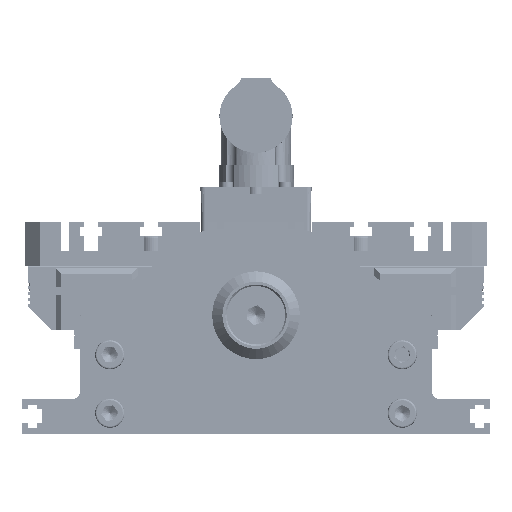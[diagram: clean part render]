
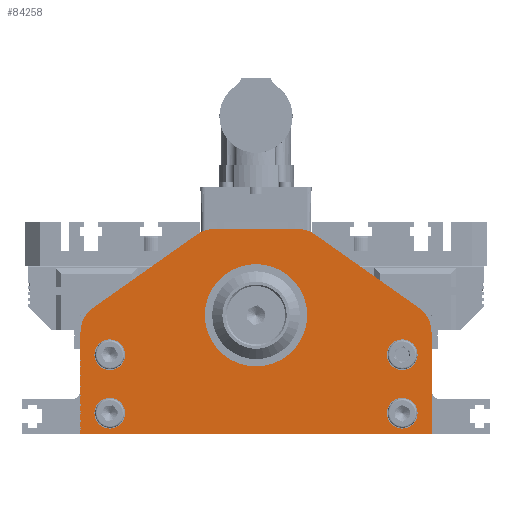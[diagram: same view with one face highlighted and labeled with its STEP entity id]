
A CAD part, front view. The second image highlights one B-rep face of the part: STEP entity #84258.
In plain terms, the highlighted planar face has unit normal (0, -1, 0).
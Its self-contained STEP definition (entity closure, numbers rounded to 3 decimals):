
#1198=FACE_BOUND('',#27876,.T.);
#1199=FACE_BOUND('',#27877,.T.);
#1200=FACE_BOUND('',#27878,.T.);
#1201=FACE_BOUND('',#27879,.T.);
#1202=FACE_BOUND('',#27880,.T.);
#3355=PLANE('',#90630);
#9880=LINE('',#134273,#17667);
#9891=LINE('',#134350,#17678);
#9895=LINE('',#134357,#17682);
#9897=LINE('',#134365,#17684);
#9901=LINE('',#134377,#17688);
#9904=LINE('',#134388,#17691);
#17667=VECTOR('',#108521,10.);
#17678=VECTOR('',#108606,10.);
#17682=VECTOR('',#108612,10.);
#17684=VECTOR('',#108622,10.);
#17688=VECTOR('',#108634,10.);
#17691=VECTOR('',#108647,10.);
#23344=FACE_OUTER_BOUND('',#27875,.T.);
#27875=EDGE_LOOP('',(#68096,#68097,#68098,#68099,#68100,#68101,#68102,#68103,
#68104,#68105));
#27876=EDGE_LOOP('',(#68106,#68107));
#27877=EDGE_LOOP('',(#68108,#68109));
#27878=EDGE_LOOP('',(#68110,#68111));
#27879=EDGE_LOOP('',(#68112,#68113));
#27880=EDGE_LOOP('',(#68114,#68115));
#31771=CIRCLE('',#90584,17.5);
#31772=CIRCLE('',#90585,17.5);
#31775=CIRCLE('',#90590,5.25);
#31776=CIRCLE('',#90591,5.25);
#31779=CIRCLE('',#90596,5.25);
#31780=CIRCLE('',#90597,5.25);
#31785=CIRCLE('',#90604,5.25);
#31786=CIRCLE('',#90605,5.25);
#31789=CIRCLE('',#90610,5.25);
#31790=CIRCLE('',#90611,5.25);
#31796=CIRCLE('',#90621,10.);
#31797=CIRCLE('',#90624,10.);
#31800=CIRCLE('',#90629,10.);
#31801=CIRCLE('',#90631,10.);
#38956=VERTEX_POINT('',#134270);
#38957=VERTEX_POINT('',#134272);
#38959=VERTEX_POINT('',#134280);
#38960=VERTEX_POINT('',#134281);
#38963=VERTEX_POINT('',#134291);
#38964=VERTEX_POINT('',#134292);
#38967=VERTEX_POINT('',#134302);
#38968=VERTEX_POINT('',#134303);
#38973=VERTEX_POINT('',#134317);
#38974=VERTEX_POINT('',#134318);
#38977=VERTEX_POINT('',#134328);
#38978=VERTEX_POINT('',#134329);
#38984=VERTEX_POINT('',#134344);
#38986=VERTEX_POINT('',#134348);
#38988=VERTEX_POINT('',#134353);
#38989=VERTEX_POINT('',#134362);
#38991=VERTEX_POINT('',#134368);
#38993=VERTEX_POINT('',#134374);
#38996=VERTEX_POINT('',#134382);
#38997=VERTEX_POINT('',#134386);
#49490=EDGE_CURVE('',#38957,#38956,#9880,.T.);
#49494=EDGE_CURVE('',#38959,#38960,#31771,.T.);
#49495=EDGE_CURVE('',#38960,#38959,#31772,.T.);
#49499=EDGE_CURVE('',#38963,#38964,#31775,.T.);
#49500=EDGE_CURVE('',#38964,#38963,#31776,.T.);
#49504=EDGE_CURVE('',#38967,#38968,#31779,.T.);
#49505=EDGE_CURVE('',#38968,#38967,#31780,.T.);
#49511=EDGE_CURVE('',#38973,#38974,#31785,.T.);
#49512=EDGE_CURVE('',#38974,#38973,#31786,.T.);
#49516=EDGE_CURVE('',#38977,#38978,#31789,.T.);
#49517=EDGE_CURVE('',#38978,#38977,#31790,.T.);
#49526=EDGE_CURVE('',#38984,#38986,#9891,.T.);
#49530=EDGE_CURVE('',#38988,#38957,#9895,.T.);
#49532=EDGE_CURVE('',#38988,#38986,#31796,.T.);
#49534=EDGE_CURVE('',#38956,#38989,#9897,.T.);
#49536=EDGE_CURVE('',#38991,#38989,#31797,.T.);
#49540=EDGE_CURVE('',#38991,#38993,#9901,.T.);
#49544=EDGE_CURVE('',#38996,#38993,#31800,.T.);
#49545=EDGE_CURVE('',#38984,#38997,#31801,.T.);
#49546=EDGE_CURVE('',#38996,#38997,#9904,.T.);
#68096=ORIENTED_EDGE('',*,*,#49545,.F.);
#68097=ORIENTED_EDGE('',*,*,#49526,.T.);
#68098=ORIENTED_EDGE('',*,*,#49532,.F.);
#68099=ORIENTED_EDGE('',*,*,#49530,.T.);
#68100=ORIENTED_EDGE('',*,*,#49490,.T.);
#68101=ORIENTED_EDGE('',*,*,#49534,.T.);
#68102=ORIENTED_EDGE('',*,*,#49536,.F.);
#68103=ORIENTED_EDGE('',*,*,#49540,.T.);
#68104=ORIENTED_EDGE('',*,*,#49544,.F.);
#68105=ORIENTED_EDGE('',*,*,#49546,.T.);
#68106=ORIENTED_EDGE('',*,*,#49516,.T.);
#68107=ORIENTED_EDGE('',*,*,#49517,.T.);
#68108=ORIENTED_EDGE('',*,*,#49511,.T.);
#68109=ORIENTED_EDGE('',*,*,#49512,.T.);
#68110=ORIENTED_EDGE('',*,*,#49504,.T.);
#68111=ORIENTED_EDGE('',*,*,#49505,.T.);
#68112=ORIENTED_EDGE('',*,*,#49499,.T.);
#68113=ORIENTED_EDGE('',*,*,#49500,.T.);
#68114=ORIENTED_EDGE('',*,*,#49494,.T.);
#68115=ORIENTED_EDGE('',*,*,#49495,.T.);
#84258=ADVANCED_FACE('',(#23344,#1198,#1199,#1200,#1201,#1202),#3355,.F.);
#90584=AXIS2_PLACEMENT_3D('',#134282,#108530,#108531);
#90585=AXIS2_PLACEMENT_3D('',#134283,#108532,#108533);
#90590=AXIS2_PLACEMENT_3D('',#134293,#108543,#108544);
#90591=AXIS2_PLACEMENT_3D('',#134294,#108545,#108546);
#90596=AXIS2_PLACEMENT_3D('',#134304,#108556,#108557);
#90597=AXIS2_PLACEMENT_3D('',#134305,#108558,#108559);
#90604=AXIS2_PLACEMENT_3D('',#134319,#108573,#108574);
#90605=AXIS2_PLACEMENT_3D('',#134320,#108575,#108576);
#90610=AXIS2_PLACEMENT_3D('',#134330,#108586,#108587);
#90611=AXIS2_PLACEMENT_3D('',#134331,#108588,#108589);
#90621=AXIS2_PLACEMENT_3D('',#134360,#108617,#108618);
#90624=AXIS2_PLACEMENT_3D('',#134369,#108626,#108627);
#90629=AXIS2_PLACEMENT_3D('',#134384,#108641,#108642);
#90630=AXIS2_PLACEMENT_3D('',#134385,#108643,#108644);
#90631=AXIS2_PLACEMENT_3D('',#134387,#108645,#108646);
#108521=DIRECTION('',(1.,0.,0.));
#108530=DIRECTION('center_axis',(0.,1.,0.));
#108531=DIRECTION('ref_axis',(-1.,0.,0.));
#108532=DIRECTION('center_axis',(0.,1.,0.));
#108533=DIRECTION('ref_axis',(-1.,0.,0.));
#108543=DIRECTION('center_axis',(0.,1.,0.));
#108544=DIRECTION('ref_axis',(-1.,0.,0.));
#108545=DIRECTION('center_axis',(0.,1.,0.));
#108546=DIRECTION('ref_axis',(-1.,0.,0.));
#108556=DIRECTION('center_axis',(0.,1.,0.));
#108557=DIRECTION('ref_axis',(-1.,0.,0.));
#108558=DIRECTION('center_axis',(0.,1.,0.));
#108559=DIRECTION('ref_axis',(-1.,0.,0.));
#108573=DIRECTION('center_axis',(0.,1.,0.));
#108574=DIRECTION('ref_axis',(-1.,0.,0.));
#108575=DIRECTION('center_axis',(0.,1.,0.));
#108576=DIRECTION('ref_axis',(-1.,0.,0.));
#108586=DIRECTION('center_axis',(0.,1.,0.));
#108587=DIRECTION('ref_axis',(-1.,0.,0.));
#108588=DIRECTION('center_axis',(0.,1.,0.));
#108589=DIRECTION('ref_axis',(-1.,0.,0.));
#108606=DIRECTION('',(-0.817,0.,-0.577));
#108612=DIRECTION('',(0.,0.,-1.));
#108617=DIRECTION('center_axis',(0.,1.,0.));
#108618=DIRECTION('ref_axis',(-0.888,0.,0.46));
#108622=DIRECTION('',(0.,0.,1.));
#108626=DIRECTION('center_axis',(0.,1.,0.));
#108627=DIRECTION('ref_axis',(0.888,0.,0.46));
#108634=DIRECTION('',(-0.817,0.,0.577));
#108641=DIRECTION('center_axis',(0.,1.,0.));
#108642=DIRECTION('ref_axis',(0.303,0.,0.953));
#108643=DIRECTION('center_axis',(0.,1.,0.));
#108644=DIRECTION('ref_axis',(1.,0.,0.));
#108645=DIRECTION('center_axis',(0.,1.,0.));
#108646=DIRECTION('ref_axis',(-0.303,0.,0.953));
#108647=DIRECTION('',(-1.,0.,0.));
#134270=CARTESIAN_POINT('',(60.,-225.,-17.25));
#134272=CARTESIAN_POINT('',(-60.,-225.,-17.25));
#134273=CARTESIAN_POINT('',(-60.,-225.,-17.25));
#134280=CARTESIAN_POINT('',(-17.5,-225.,23.25));
#134281=CARTESIAN_POINT('',(17.5,-225.,23.25));
#134282=CARTESIAN_POINT('Origin',(0.,-225.,23.25));
#134283=CARTESIAN_POINT('Origin',(0.,-225.,23.25));
#134291=CARTESIAN_POINT('',(44.75,-225.,-10.25));
#134292=CARTESIAN_POINT('',(55.25,-225.,-10.25));
#134293=CARTESIAN_POINT('Origin',(50.,-225.,-10.25));
#134294=CARTESIAN_POINT('Origin',(50.,-225.,-10.25));
#134302=CARTESIAN_POINT('',(-55.25,-225.,9.75));
#134303=CARTESIAN_POINT('',(-44.75,-225.,9.75));
#134304=CARTESIAN_POINT('Origin',(-50.,-225.,9.75));
#134305=CARTESIAN_POINT('Origin',(-50.,-225.,9.75));
#134317=CARTESIAN_POINT('',(-55.25,-225.,-10.25));
#134318=CARTESIAN_POINT('',(-44.75,-225.,-10.25));
#134319=CARTESIAN_POINT('Origin',(-50.,-225.,-10.25));
#134320=CARTESIAN_POINT('Origin',(-50.,-225.,-10.25));
#134328=CARTESIAN_POINT('',(44.75,-225.,9.75));
#134329=CARTESIAN_POINT('',(55.25,-225.,9.75));
#134330=CARTESIAN_POINT('Origin',(50.,-225.,9.75));
#134331=CARTESIAN_POINT('Origin',(50.,-225.,9.75));
#134344=CARTESIAN_POINT('',(-20.093,-225.,50.92));
#134348=CARTESIAN_POINT('',(-55.767,-225.,25.738));
#134350=CARTESIAN_POINT('',(-41.155,-225.,36.053));
#134353=CARTESIAN_POINT('',(-60.,-225.,17.568));
#134357=CARTESIAN_POINT('',(-60.,-225.,52.75));
#134360=CARTESIAN_POINT('Origin',(-50.,-225.,17.568));
#134362=CARTESIAN_POINT('',(60.,-225.,17.568));
#134365=CARTESIAN_POINT('',(60.,-225.,-17.25));
#134368=CARTESIAN_POINT('',(55.767,-225.,25.738));
#134369=CARTESIAN_POINT('Origin',(50.,-225.,17.568));
#134374=CARTESIAN_POINT('',(20.093,-225.,50.92));
#134377=CARTESIAN_POINT('',(19.905,-225.,51.053));
#134382=CARTESIAN_POINT('',(14.326,-225.,52.75));
#134384=CARTESIAN_POINT('Origin',(14.326,-225.,42.75));
#134385=CARTESIAN_POINT('Origin',(0.,-225.,17.75));
#134386=CARTESIAN_POINT('',(-14.326,-225.,52.75));
#134387=CARTESIAN_POINT('Origin',(-14.326,-225.,42.75));
#134388=CARTESIAN_POINT('',(60.,-225.,52.75));
